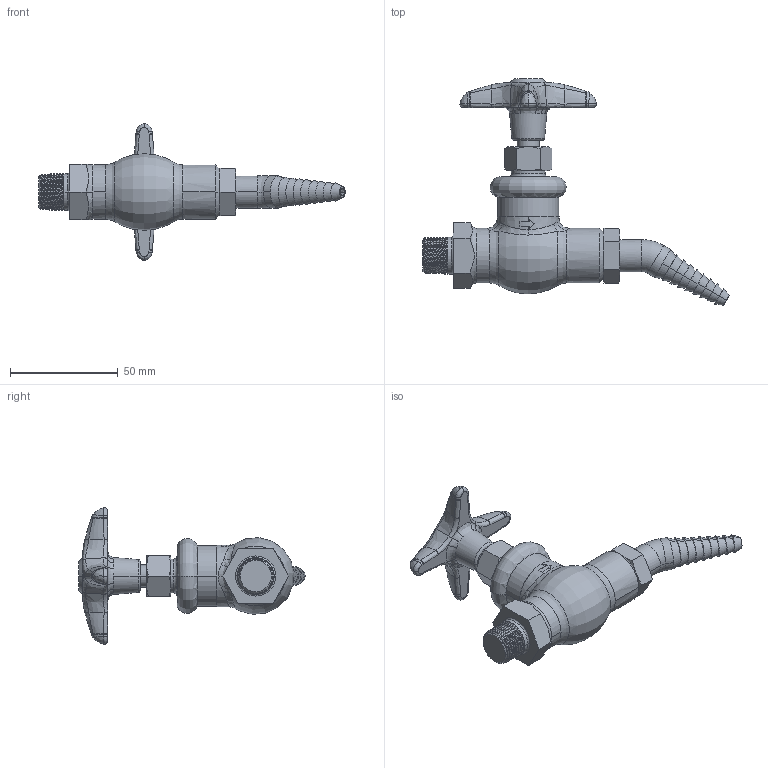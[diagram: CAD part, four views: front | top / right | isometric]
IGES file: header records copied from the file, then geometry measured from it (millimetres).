
Start section:  PTC IGES file: LGN1-A22L.igs
Global section: file name: LGN1-A22L.igs; native system: Creo Parametric by PTC Inc.; preprocessor: 2014500; author: usch_engrender; organization: Unknown; date: 20151211.155557; units: inch
Bounding box: 142.53 x 105.32 x 63.42 mm (x, y, z)
Volume: 83522.4 mm3; surface area: 22518.3 mm2
Topology: 1 solids, 4 shells, 342 faces, 780 edges, 463 vertices
Faces by surface type: bspline 205, revolution 137
